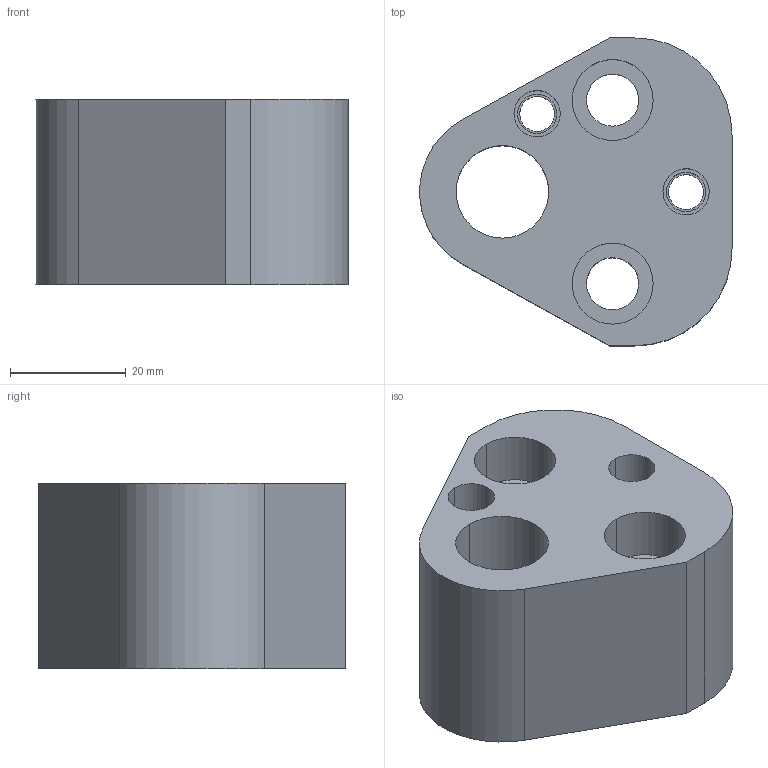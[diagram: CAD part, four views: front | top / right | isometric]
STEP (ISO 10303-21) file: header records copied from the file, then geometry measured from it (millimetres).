
FILE_DESCRIPTION(/* description */ (''),/* implementation_level */ '2;1');
FILE_NAME(/* name */ '3d_crn-a16_03612_r00.stp',/* time_stamp */ '2011-01-10T14:16:25+09:00',/* author */ ('MISUMI'),/* organization */ (''),/* preprocessor_version */ 'ST-DEVELOPER v11',/* originating_system */ 'UGS - NX 5.0',/* authorisation */ '');
FILE_SCHEMA (('CONFIG_CONTROL_DESIGN'));
Length unit declared in the file: millimetre
Products named in the file (1): 3d_crn-a16_03612_r00
Bounding box: 53.95 x 53.2 x 32 mm (x, y, z)
Volume: 53036.5 mm3; surface area: 14114 mm2
Topology: 1 solids, 1 shells, 41 faces, 96 edges, 64 vertices
Faces by surface type: cylinder 27, plane 14
Entity records: 1310 total; most frequent: DIRECTION 234, CARTESIAN_POINT 202, ORIENTED_EDGE 192, EDGE_CURVE 96, AXIS2_PLACEMENT_3D 96, VERTEX_POINT 64, EDGE_LOOP 58, CIRCLE 54
